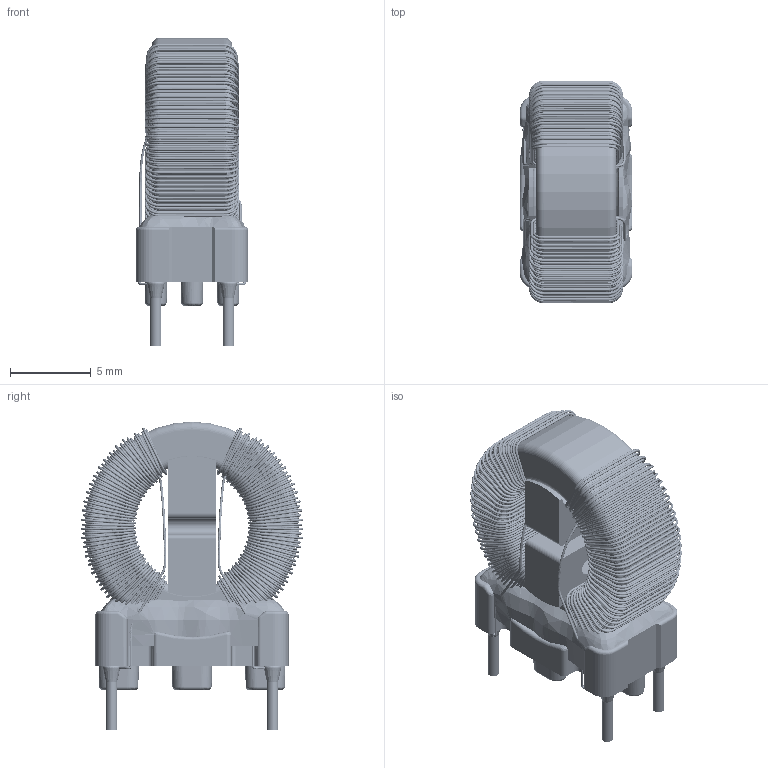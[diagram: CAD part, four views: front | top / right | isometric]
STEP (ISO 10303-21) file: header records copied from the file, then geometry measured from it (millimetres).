
FILE_DESCRIPTION(/* description */ ('Unknown'),/* implementation_level */ '2;1');
FILE_NAME(/* name */ 'L_Wurth_WE-CMB-XS_L15W7.5H18',/* time_stamp */ '2024-10-11T16:06:55+08:00',/* author */ ('Unknown'),/* organization */ ('Unknown'),/* preprocessor_version */ 'ST-DEVELOPER v16.7',/* originating_system */ 'Solid Edge',/* authorisation */ 'Unknown');
FILE_SCHEMA (('AUTOMOTIVE_DESIGN {1 0 10303 214 3 1 1}'));
Length unit declared in the file: millimetre
Products named in the file (2): L_Wurth_WE-CMB-XS_L15W7.5H18
Assembly tree (1 placements, depth 2):
  L_Wurth_WE-CMB-XS_L15W7.5H18
    L_Wurth_WE-CMB-XS_L15W7.5H18
Bounding box: 7 x 13.84 x 19.16 mm (x, y, z)
Volume: 787.8 mm3; surface area: 2923.7 mm2
Topology: 12 solids, 18 shells, 2270 faces, 5767 edges, 3300 vertices
Faces by surface type: cylinder 1085, bspline 563, torus 492, plane 118, cone 12
Full cylindrical faces by diameter (mm): 0.15 x893, 0.7 x12, 7.8 x1, 13 x1
Entity records: 105762 total; most frequent: CARTESIAN_POINT 54837, DIRECTION 6796, ORIENTED_EDGE 6216, EDGE_LOOP 4124, FACE_BOUND 4124, AXIS2_PLACEMENT_3D 3256, EDGE_CURVE 3108, VERTEX_POINT 2594
